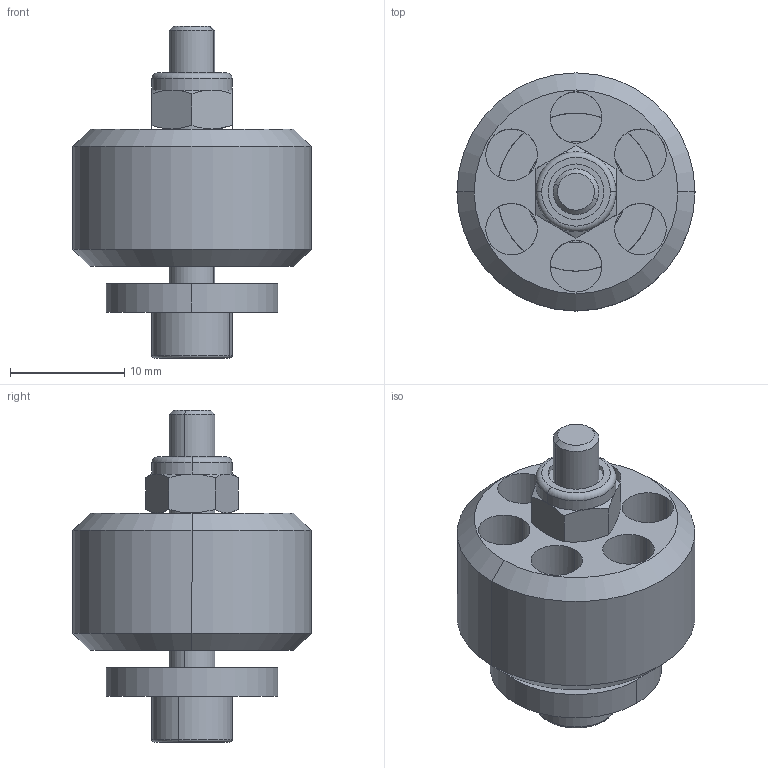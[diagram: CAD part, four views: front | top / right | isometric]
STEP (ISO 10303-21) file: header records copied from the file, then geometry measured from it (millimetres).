
FILE_DESCRIPTION (( 'STEP AP214' ), '1' );
FILE_NAME ('VSR12001.STEP', '2025-06-04T00:01:41', ( '' ), ( '' ), 'SwSTEP 2.0', 'SolidWorks 2023', '' );
FILE_SCHEMA (( 'AUTOMOTIVE_DESIGN' ));
Length unit declared in the file: millimetre
Products named in the file (1): VSR12001
Bounding box: 20.8 x 20.8 x 29 mm (x, y, z)
Surface area: 3148.1 mm2 (no closed solid volume)
Topology: 0 solids, 5 shells, 76 faces, 246 edges, 157 vertices
Faces by surface type: plane 30, cylinder 28, cone 14, torus 4
Entity records: 2914 total; most frequent: CARTESIAN_POINT 708, DIRECTION 492, ORIENTED_EDGE 428, EDGE_CURVE 244, AXIS2_PLACEMENT_3D 201, VERTEX_POINT 157, CIRCLE 124, LINE 90
